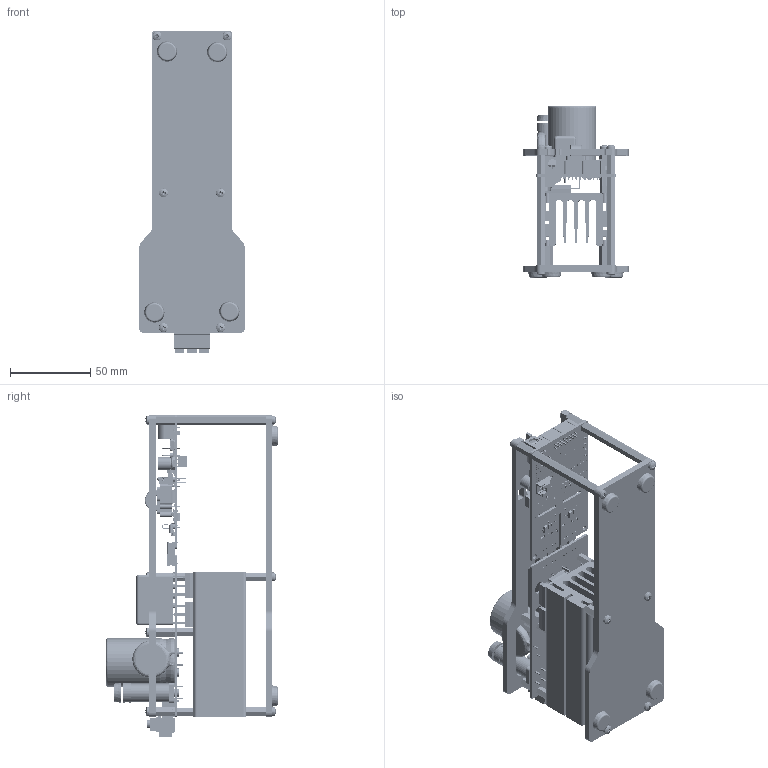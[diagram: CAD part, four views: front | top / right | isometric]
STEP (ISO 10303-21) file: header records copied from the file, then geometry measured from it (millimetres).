
FILE_DESCRIPTION (( 'STEP AP214' ), '1' );
FILE_NAME ('SPM-HB-KIT.STEP', '2020-02-06T11:23:43', ( '' ), ( '' ), 'SwSTEP 2.0', 'SolidWorks 2019', '' );
FILE_SCHEMA (( 'AUTOMOTIVE_DESIGN' ));
Length unit declared in the file: millimetre
Products named in the file (10): SPM-HB-KIT; SPM-HB.02 new; HEX SPACER 55MM; Bumper; Acrylic-SPM-HB-BOT; GDA-3A2S1.07; HEX SPACER 12MM; pan cross head_am_B18.6.7M - M3 x 0.5 x 6 Type I Cross Recessed PHMS --6N; Acrylic-SPM-HB-GDA-TOP; pan cross head_am_B18.6.7M - M3 x 0.5 x 20 Type I Cross Recessed PHMS --20N
Assembly tree (32 placements, depth 2):
  SPM-HB-KIT
    Acrylic-SPM-HB-BOT
    Acrylic-SPM-HB-GDA-TOP
    SPM-HB.02 new
    Bumper  x4
    HEX SPACER 12MM  x10
    HEX SPACER 55MM  x2
    pan cross head_am_B18.6.7M - M3 x 0.5 x 6 Type I Cross Recessed PHMS --6N  x8
    pan cross head_am_B18.6.7M - M3 x 0.5 x 20 Type I Cross Recessed PHMS --20N  x4
    GDA-3A2S1.07
Bounding box: 65.6 x 106.82 x 200.67 mm (x, y, z)
Volume: 77020 mm3; surface area: 142738.6 mm2
Topology: 30 solids, 928 shells, 6838 faces, 26107 edges, 19843 vertices
Faces by surface type: plane 4492, cylinder 1471, bspline 700, cone 85, torus 62, sphere 28
Entity records: 383928 total; most frequent: CARTESIAN_POINT 114712, DIRECTION 37375, ORIENTED_EDGE 37366, EDGE_CURVE 25327, VERTEX_POINT 19361, LINE 16683, VECTOR 16683, AXIS2_PLACEMENT_3D 10346
